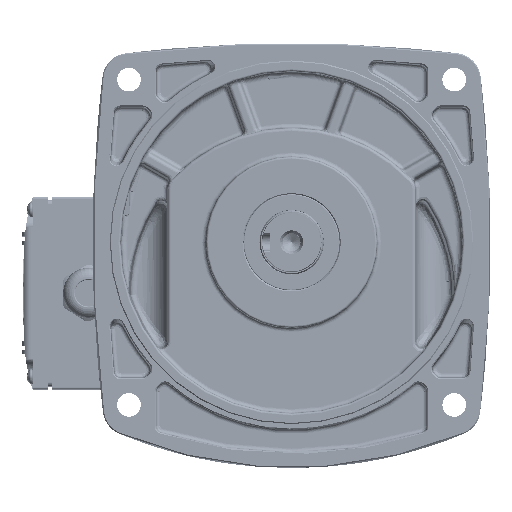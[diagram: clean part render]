
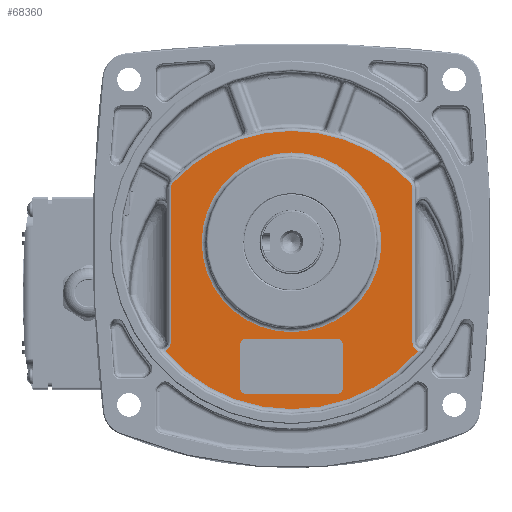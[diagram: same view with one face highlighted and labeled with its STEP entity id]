
A CAD part, top view. The second image highlights one B-rep face of the part: STEP entity #68360.
In plain terms, the highlighted planar face has unit normal (0, 0, 1).
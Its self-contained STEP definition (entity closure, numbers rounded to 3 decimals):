
#1930=B_SPLINE_CURVE_WITH_KNOTS('',3,(#114636,#114637,#114638,#114639),
 .UNSPECIFIED.,.F.,.F.,(4,4),(0.,0.336),.UNSPECIFIED.);
#1931=B_SPLINE_CURVE_WITH_KNOTS('',3,(#114667,#114668,#114669,#114670),
 .UNSPECIFIED.,.F.,.F.,(4,4),(0.,0.336),.UNSPECIFIED.);
#1933=B_SPLINE_CURVE_WITH_KNOTS('',3,(#114723,#114724,#114725,#114726,#114727),
 .UNSPECIFIED.,.F.,.F.,(4,1,4),(0.,0.318,0.51),
 .UNSPECIFIED.);
#2040=B_SPLINE_CURVE_WITH_KNOTS('',3,(#116848,#116849,#116850,#116851,#116852),
 .UNSPECIFIED.,.F.,.F.,(4,1,4),(0.603,0.795,1.113),
 .UNSPECIFIED.);
#6065=LINE('',#114607,#9364);
#6066=LINE('',#114673,#9365);
#6123=LINE('',#116855,#9422);
#6124=LINE('',#116859,#9423);
#6125=LINE('',#116863,#9424);
#6126=LINE('',#116867,#9425);
#9364=VECTOR('',#86388,10.);
#9365=VECTOR('',#86405,10.);
#9422=VECTOR('',#86848,10.);
#9423=VECTOR('',#86851,10.);
#9424=VECTOR('',#86854,10.);
#9425=VECTOR('',#86857,10.);
#12412=FACE_BOUND('',#18481,.T.);
#12413=FACE_BOUND('',#18482,.T.);
#14232=FACE_OUTER_BOUND('',#18480,.T.);
#18480=EDGE_LOOP('',(#50217,#50218,#50219,#50220,#50221,#50222,#50223,#50224));
#18481=EDGE_LOOP('',(#50225,#50226,#50227,#50228,#50229,#50230,#50231,#50232));
#18482=EDGE_LOOP('',(#50233));
#22775=CIRCLE('',#74056,75.535);
#22800=CIRCLE('',#74094,42.);
#22899=CIRCLE('',#74253,77.963);
#22900=CIRCLE('',#74254,3.);
#22901=CIRCLE('',#74255,3.);
#22902=CIRCLE('',#74256,3.);
#22903=CIRCLE('',#74257,3.);
#27790=VERTEX_POINT('',#114604);
#27791=VERTEX_POINT('',#114606);
#27793=VERTEX_POINT('',#114630);
#27794=VERTEX_POINT('',#114641);
#27795=VERTEX_POINT('',#114665);
#27796=VERTEX_POINT('',#114672);
#27797=VERTEX_POINT('',#114710);
#27829=VERTEX_POINT('',#114894);
#27966=VERTEX_POINT('',#116846);
#27967=VERTEX_POINT('',#116853);
#27968=VERTEX_POINT('',#116854);
#27969=VERTEX_POINT('',#116856);
#27970=VERTEX_POINT('',#116858);
#27971=VERTEX_POINT('',#116860);
#27972=VERTEX_POINT('',#116862);
#27973=VERTEX_POINT('',#116864);
#27974=VERTEX_POINT('',#116866);
#35487=EDGE_CURVE('',#27790,#27791,#6065,.T.);
#35491=EDGE_CURVE('',#27791,#27793,#1930,.T.);
#35492=EDGE_CURVE('',#27793,#27794,#22775,.T.);
#35496=EDGE_CURVE('',#27794,#27795,#1931,.T.);
#35497=EDGE_CURVE('',#27795,#27796,#6066,.T.);
#35500=EDGE_CURVE('',#27796,#27797,#1933,.T.);
#35543=EDGE_CURVE('',#27829,#27829,#22800,.T.);
#35782=EDGE_CURVE('',#27797,#27966,#22899,.T.);
#35783=EDGE_CURVE('',#27966,#27790,#2040,.T.);
#35784=EDGE_CURVE('',#27967,#27968,#6123,.T.);
#35785=EDGE_CURVE('',#27969,#27968,#22900,.T.);
#35786=EDGE_CURVE('',#27969,#27970,#6124,.T.);
#35787=EDGE_CURVE('',#27971,#27970,#22901,.T.);
#35788=EDGE_CURVE('',#27971,#27972,#6125,.T.);
#35789=EDGE_CURVE('',#27973,#27972,#22902,.T.);
#35790=EDGE_CURVE('',#27973,#27974,#6126,.T.);
#35791=EDGE_CURVE('',#27967,#27974,#22903,.T.);
#50217=ORIENTED_EDGE('',*,*,#35782,.F.);
#50218=ORIENTED_EDGE('',*,*,#35500,.F.);
#50219=ORIENTED_EDGE('',*,*,#35497,.F.);
#50220=ORIENTED_EDGE('',*,*,#35496,.F.);
#50221=ORIENTED_EDGE('',*,*,#35492,.F.);
#50222=ORIENTED_EDGE('',*,*,#35491,.F.);
#50223=ORIENTED_EDGE('',*,*,#35487,.F.);
#50224=ORIENTED_EDGE('',*,*,#35783,.F.);
#50225=ORIENTED_EDGE('',*,*,#35784,.T.);
#50226=ORIENTED_EDGE('',*,*,#35785,.F.);
#50227=ORIENTED_EDGE('',*,*,#35786,.T.);
#50228=ORIENTED_EDGE('',*,*,#35787,.F.);
#50229=ORIENTED_EDGE('',*,*,#35788,.T.);
#50230=ORIENTED_EDGE('',*,*,#35789,.F.);
#50231=ORIENTED_EDGE('',*,*,#35790,.T.);
#50232=ORIENTED_EDGE('',*,*,#35791,.F.);
#50233=ORIENTED_EDGE('',*,*,#35543,.F.);
#62124=PLANE('',#74252);
#68360=ADVANCED_FACE('',(#14232,#12412,#12413),#62124,.F.);
#74056=AXIS2_PLACEMENT_3D('',#114642,#86395,#86396);
#74094=AXIS2_PLACEMENT_3D('',#114896,#86489,#86490);
#74252=AXIS2_PLACEMENT_3D('',#116845,#86844,#86845);
#74253=AXIS2_PLACEMENT_3D('',#116847,#86846,#86847);
#74254=AXIS2_PLACEMENT_3D('',#116857,#86849,#86850);
#74255=AXIS2_PLACEMENT_3D('',#116861,#86852,#86853);
#74256=AXIS2_PLACEMENT_3D('',#116865,#86855,#86856);
#74257=AXIS2_PLACEMENT_3D('',#116868,#86858,#86859);
#86388=DIRECTION('',(0.,1.,0.));
#86395=DIRECTION('center_axis',(0.,0.,-1.));
#86396=DIRECTION('ref_axis',(0.,1.,0.));
#86405=DIRECTION('',(0.,-1.,0.));
#86489=DIRECTION('center_axis',(0.,0.,1.));
#86490=DIRECTION('ref_axis',(-1.,0.,0.));
#86844=DIRECTION('center_axis',(0.,0.,-1.));
#86845=DIRECTION('ref_axis',(-1.,0.,0.));
#86846=DIRECTION('center_axis',(0.,0.,-1.));
#86847=DIRECTION('ref_axis',(0.,-1.,0.));
#86848=DIRECTION('',(0.,1.,0.));
#86849=DIRECTION('center_axis',(0.,0.,1.));
#86850=DIRECTION('ref_axis',(-0.707,0.707,0.));
#86851=DIRECTION('',(1.,0.,0.));
#86852=DIRECTION('center_axis',(0.,0.,1.));
#86853=DIRECTION('ref_axis',(0.707,0.707,0.));
#86854=DIRECTION('',(0.,-1.,0.));
#86855=DIRECTION('center_axis',(0.,0.,1.));
#86856=DIRECTION('ref_axis',(0.707,-0.707,0.));
#86857=DIRECTION('',(-1.,0.,0.));
#86858=DIRECTION('center_axis',(0.,0.,1.));
#86859=DIRECTION('ref_axis',(-0.707,-0.707,0.));
#114604=CARTESIAN_POINT('',(-53.609,-23.142,56.));
#114606=CARTESIAN_POINT('',(-53.609,48.472,56.));
#114607=CARTESIAN_POINT('',(-53.609,-35.67,56.));
#114630=CARTESIAN_POINT('',(-52.402,51.541,56.));
#114636=CARTESIAN_POINT('Ctrl Pts',(-53.609,48.472,56.));
#114637=CARTESIAN_POINT('Ctrl Pts',(-53.609,49.591,56.));
#114638=CARTESIAN_POINT('Ctrl Pts',(-53.165,50.722,
56.));
#114639=CARTESIAN_POINT('Ctrl Pts',(-52.402,51.541,
56.));
#114641=CARTESIAN_POINT('',(58.184,51.541,56.));
#114642=CARTESIAN_POINT('Origin',(2.891,0.08,56.));
#114665=CARTESIAN_POINT('',(59.391,48.472,56.));
#114667=CARTESIAN_POINT('Ctrl Pts',(58.184,51.541,56.));
#114668=CARTESIAN_POINT('Ctrl Pts',(58.946,50.722,56.));
#114669=CARTESIAN_POINT('Ctrl Pts',(59.391,49.591,56.));
#114670=CARTESIAN_POINT('Ctrl Pts',(59.391,48.472,56.));
#114672=CARTESIAN_POINT('',(59.391,-23.142,56.));
#114673=CARTESIAN_POINT('',(59.391,-35.67,56.));
#114710=CARTESIAN_POINT('',(62.014,-27.239,56.));
#114723=CARTESIAN_POINT('Ctrl Pts',(59.391,-23.142,
56.));
#114724=CARTESIAN_POINT('Ctrl Pts',(59.391,-24.202,
56.));
#114725=CARTESIAN_POINT('Ctrl Pts',(60.023,-25.914,
56.));
#114726=CARTESIAN_POINT('Ctrl Pts',(61.43,-26.963,
56.));
#114727=CARTESIAN_POINT('Ctrl Pts',(62.016,-27.235,
56.));
#114894=CARTESIAN_POINT('',(44.891,23.58,56.));
#114896=CARTESIAN_POINT('Origin',(2.891,23.58,56.));
#116845=CARTESIAN_POINT('Origin',(2.891,0.08,56.));
#116846=CARTESIAN_POINT('',(-56.233,-27.239,56.));
#116847=CARTESIAN_POINT('Origin',(2.891,23.58,56.));
#116848=CARTESIAN_POINT('Ctrl Pts',(-56.235,-27.235,
56.));
#116849=CARTESIAN_POINT('Ctrl Pts',(-55.648,-26.963,
56.));
#116850=CARTESIAN_POINT('Ctrl Pts',(-54.241,-25.914,
56.));
#116851=CARTESIAN_POINT('Ctrl Pts',(-53.609,-24.202,
56.));
#116852=CARTESIAN_POINT('Ctrl Pts',(-53.609,-23.142,56.));
#116853=CARTESIAN_POINT('',(-21.109,-44.42,56.));
#116854=CARTESIAN_POINT('',(-21.109,-24.42,56.));
#116855=CARTESIAN_POINT('',(-21.109,-10.67,56.));
#116856=CARTESIAN_POINT('',(-18.109,-21.42,56.));
#116857=CARTESIAN_POINT('Origin',(-18.109,-24.42,56.));
#116858=CARTESIAN_POINT('',(23.891,-21.42,56.));
#116859=CARTESIAN_POINT('',(14.891,-21.42,56.));
#116860=CARTESIAN_POINT('',(26.891,-24.42,56.));
#116861=CARTESIAN_POINT('Origin',(23.891,-24.42,56.));
#116862=CARTESIAN_POINT('',(26.891,-44.42,56.));
#116863=CARTESIAN_POINT('',(26.891,-23.67,56.));
#116864=CARTESIAN_POINT('',(23.891,-47.42,56.));
#116865=CARTESIAN_POINT('Origin',(23.891,-44.42,56.));
#116866=CARTESIAN_POINT('',(-18.109,-47.42,56.));
#116867=CARTESIAN_POINT('',(-9.109,-47.42,56.));
#116868=CARTESIAN_POINT('Origin',(-18.109,-44.42,56.));
